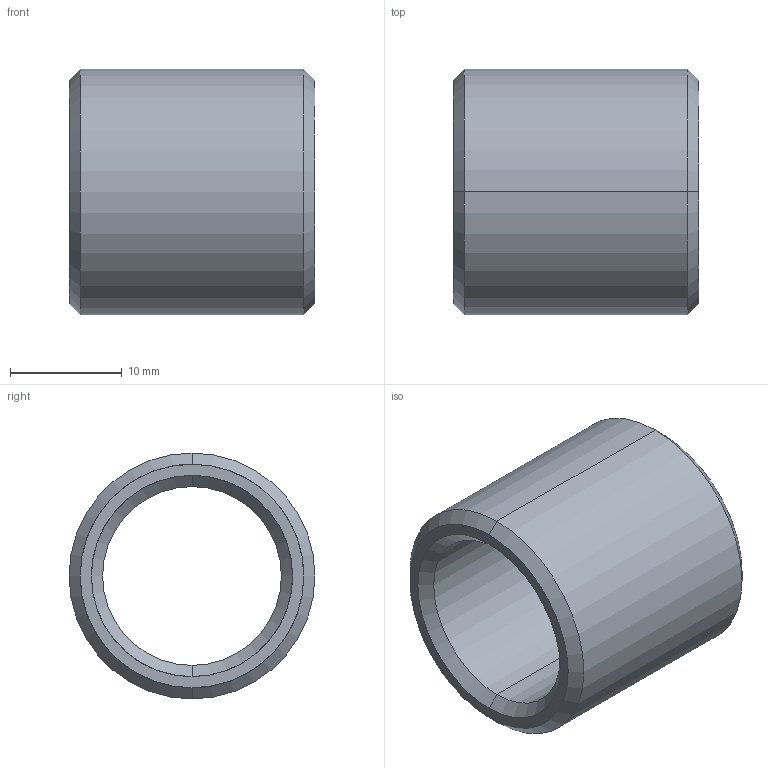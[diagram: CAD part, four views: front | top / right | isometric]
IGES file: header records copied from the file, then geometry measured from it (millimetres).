
Start section: START RECORD GO HERE.
Global section: file name: 352-16X22.igs; native system: DASSAULT SYSTEMES CATIA V5 R20 - www.3ds.com; preprocessor: CATIA Version 5 Release 20 ; author: Utente; organization: NB04-ASUS; date: 20210410.110934; units: millimetre
Bounding box: 22 x 22 x 22 mm (x, y, z)
Surface area: 2851.7 mm2 (no closed solid volume)
Topology: 0 solids, 0 shells, 14 faces, 88 edges, 88 vertices
Faces by surface type: revolution 12, plane 2
